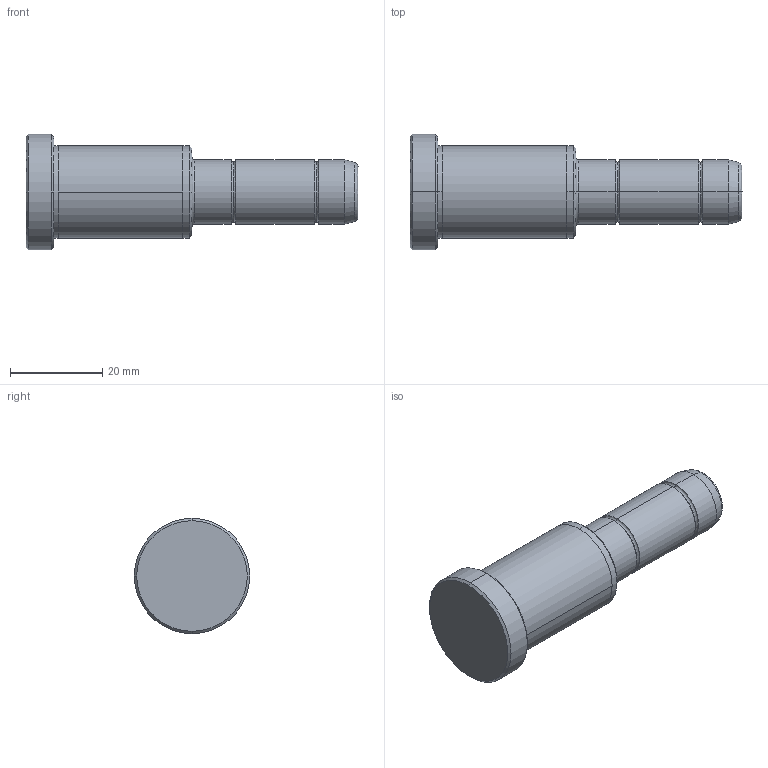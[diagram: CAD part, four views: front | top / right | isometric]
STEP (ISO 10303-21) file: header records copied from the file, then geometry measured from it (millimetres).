
FILE_DESCRIPTION (( 'STEP AP214' ), '1' );
FILE_NAME ('D02_14x36x36.step', '2011-12-25T21:10:32', ( 'Dell' ), ( '' ), 'SwSTEP 2.0', 'SolidWorks 2010', '' );
FILE_SCHEMA (( 'AUTOMOTIVE_DESIGN' ));
Length unit declared in the file: millimetre
Products named in the file (1): D02_14x36x36
Bounding box: 72 x 25 x 25 mm (x, y, z)
Volume: 17815.4 mm3; surface area: 4847.9 mm2
Topology: 1 solids, 1 shells, 42 faces, 84 edges, 48 vertices
Faces by surface type: cylinder 14, bspline 12, cone 10, plane 6
Entity records: 1244 total; most frequent: CARTESIAN_POINT 405, DIRECTION 172, ORIENTED_EDGE 168, EDGE_CURVE 84, AXIS2_PLACEMENT_3D 75, VERTEX_POINT 48, EDGE_LOOP 46, CIRCLE 44
